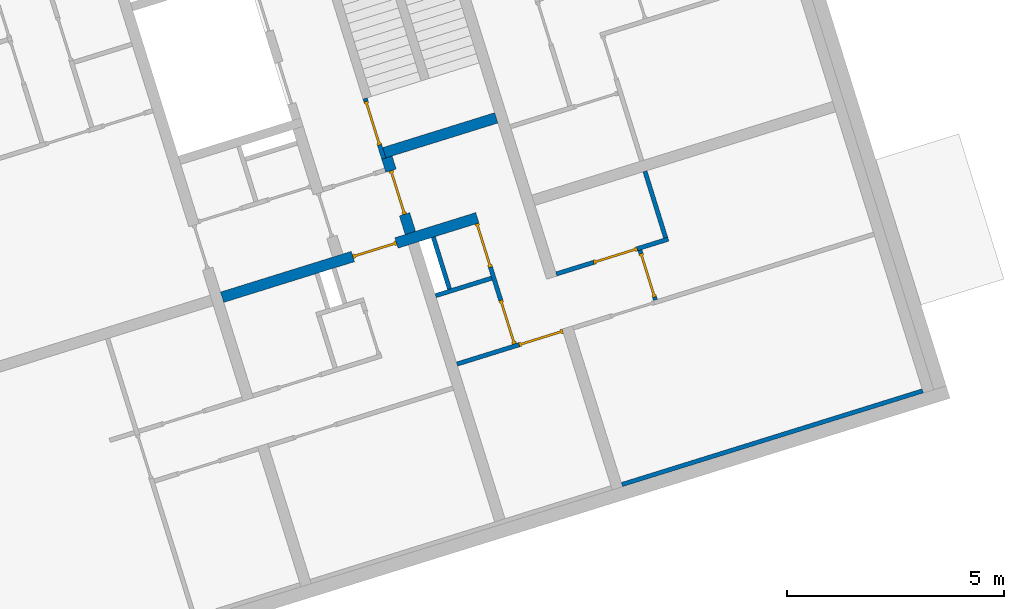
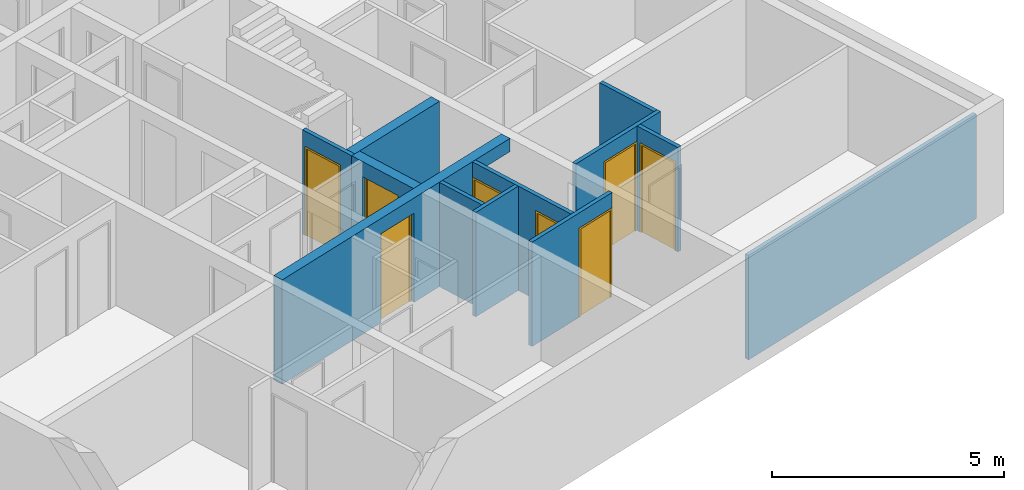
# One storey, part 3 of 9: 12 walls, 8 doors, 10 openings.
"""IFC4 building model written with IfcOpenShell, lengths in metres."""

import ifcopenshell
import ifcopenshell.guid

model = None  # the IFC model being written
_history = None  # IfcOwnerHistory: only IFC2X3 demands one
_inside = {}  # id of a spatial element -> (the spatial element, [elements in it])
_under = {}  # id of a project, library or spatial element -> (it, [spatial elements below it])
_declared = {}  # id of a project -> (the project, [libraries it declares])
_typed = {}  # id of a type object -> (the type object, [elements of that type])
_made_of = {}  # id of a material, layer set ... -> (it, [elements and type objects made of it])


def new_model(schema):
    """Start an empty IFC model of exactly this schema.

    Asked for "IFC4X3", IfcOpenShell would pick the latest addendum, in which some entities
    have other attributes; the version numbers below select the first issue.
    IFC2X3 requires an IfcOwnerHistory on every rooted entity: one is made here for all.
    """
    global model, _history
    if schema == "IFC4X3":
        model = ifcopenshell.file(schema_version=(4, 3, 0, 0))
    else:
        model = ifcopenshell.file(schema=schema)
    _inside.clear()
    _under.clear()
    _declared.clear()
    _typed.clear()
    _made_of.clear()
    _history = None
    if model.schema == "IFC2X3":
        org = make("IfcOrganization", Name="unknown")
        user = make(
            "IfcPersonAndOrganization",
            ThePerson=make("IfcPerson", FamilyName="unknown"),
            TheOrganization=org,
        )
        app = make(
            "IfcApplication",
            ApplicationDeveloper=org,
            Version="unknown",
            ApplicationFullName="unknown",
            ApplicationIdentifier="unknown",
        )
        _history = make(
            "IfcOwnerHistory",
            OwningUser=user,
            OwningApplication=app,
            ChangeAction="ADDED",
            CreationDate=0,
        )
    return model


def make(cls, **values):
    """One entity of the class cls with the attributes given. An attribute that is None is left unset."""
    return model.create_entity(
        cls, **{name: value for name, value in values.items() if value is not None}
    )


def entity(cls, *values):
    """Any entity or typed value of the class cls, its attributes in the order of the schema. None: left unset."""
    e = model.create_entity(cls)
    for i, value in enumerate(values):
        if value is not None:
            e[i] = value
    return e


def rooted(cls, **values):
    """An entity with a GlobalId (a new one), such as an element, a storey or a relation."""
    return make(cls, GlobalId=ifcopenshell.guid.new(), OwnerHistory=_history, **values)


def si_unit(unit_type, name, prefix=None):
    """IfcSIUnit, for example si_unit("LENGTHUNIT", "METRE", prefix="MILLI")."""
    return make("IfcSIUnit", UnitType=unit_type, Prefix=prefix, Name=name)


def converted_unit(unit_type, name, factor, base, dimensions=None, offset=None):
    """IfcConversionBasedUnit, such as the inch: factor (a typed value) times the base unit."""
    return make(
        "IfcConversionBasedUnit"
        if offset is None
        else "IfcConversionBasedUnitWithOffset",
        ConversionOffset=offset,
        Dimensions=None
        if dimensions is None
        else entity("IfcDimensionalExponents", *dimensions),
        UnitType=unit_type,
        Name=name,
        ConversionFactor=make(
            "IfcMeasureWithUnit", ValueComponent=factor, UnitComponent=base
        ),
    )


def assignment(units):
    """IfcUnitAssignment: the units of a project."""
    return None if units is None else make("IfcUnitAssignment", Units=units)


def point(xyz):
    """IfcCartesianPoint."""
    return None if xyz is None else make("IfcCartesianPoint", Coordinates=xyz)


def direction(xyz):
    """IfcDirection."""
    return None if xyz is None else make("IfcDirection", DirectionRatios=xyz)


def frame(location, z_axis=None, x_axis=None):
    """IfcAxis2Placement3D, a coordinate frame: its origin and axes. An axis left out is left unset."""
    return make(
        "IfcAxis2Placement3D",
        Location=point(location),
        Axis=direction(z_axis),
        RefDirection=direction(x_axis),
    )


def origin():
    """The frame at (0, 0, 0) with its axes left unset."""
    return frame((0.0, 0.0, 0.0))


def place(relative_to, where):
    """IfcLocalPlacement: puts the frame where relative to a parent placement (None: the world)."""
    return make(
        "IfcLocalPlacement", PlacementRelTo=relative_to, RelativePlacement=where
    )


def context(
    kind, dimensions, precision=None, world=None, true_north=None, identifier=None
):
    """IfcGeometricRepresentationContext, for example the 3D "Model" context."""
    return make(
        "IfcGeometricRepresentationContext",
        ContextIdentifier=identifier,
        ContextType=kind,
        CoordinateSpaceDimension=dimensions,
        Precision=precision,
        WorldCoordinateSystem=world,
        TrueNorth=true_north,
    )


def subcontext(parent, identifier, kind, view, scale=None):
    """IfcGeometricRepresentationSubContext, for example "Body" below "Model"."""
    return make(
        "IfcGeometricRepresentationSubContext",
        ContextIdentifier=identifier,
        ContextType=kind,
        ParentContext=parent,
        TargetScale=scale,
        TargetView=view,
    )


def project(units=None, contexts=None):
    """IfcProject with its units and contexts."""
    return rooted(
        "IfcProject",
        Name="project",
        RepresentationContexts=contexts,
        UnitsInContext=assignment(units),
    )


def spatial(cls, under=None, at=None, **own):
    """A site, building, storey or space (cls), placed at a placement, below another one or the project."""
    s = rooted(cls, ObjectPlacement=at, **own)
    if under is not None:
        _under.setdefault(under.id(), (under, []))[1].append(s)
    return s


def point_list(points):
    """IfcCartesianPointList2D or 3D."""
    cls = (
        "IfcCartesianPointList2D" if len(points[0]) == 2 else "IfcCartesianPointList3D"
    )
    return make(cls, CoordList=points)


def indexed_curve(points, segments=None, self_intersect=None):
    """IfcIndexedPolyCurve: lines and arcs through numbered points (the first is 1)."""
    return make(
        "IfcIndexedPolyCurve",
        Points=point_list(points),
        Segments=segments,
        SelfIntersect=self_intersect,
    )


def outline(outer, holes=None, kind="AREA"):
    """IfcArbitraryClosedProfileDef: a profile drawn as a closed curve; with holes, ...WithVoids."""
    if holes is None:
        return make("IfcArbitraryClosedProfileDef", ProfileType=kind, OuterCurve=outer)
    return make(
        "IfcArbitraryProfileDefWithVoids",
        ProfileType=kind,
        OuterCurve=outer,
        InnerCurves=holes,
    )


def extrude(swept, where, along, depth):
    """IfcExtrudedAreaSolid: the profile swept, set in the frame where, extruded along a direction by depth."""
    return make(
        "IfcExtrudedAreaSolid",
        SweptArea=swept,
        Position=where,
        ExtrudedDirection=direction(along),
        Depth=depth,
    )


def polygons(points, faces, closed=None, point_numbers=None):
    """IfcPolygonalFaceSet: a face is its outer loop, then its inner loops; points numbered from 1."""
    made = []
    for loops in faces:
        if len(loops) == 1:
            made.append(make("IfcIndexedPolygonalFace", CoordIndex=loops[0]))
        else:
            made.append(
                make(
                    "IfcIndexedPolygonalFaceWithVoids",
                    CoordIndex=loops[0],
                    InnerCoordIndices=loops[1:],
                )
            )
    return make(
        "IfcPolygonalFaceSet",
        Coordinates=point_list(points),
        Closed=closed,
        Faces=made,
        PnIndex=point_numbers,
    )


def shape(context_of_items, identifier, shape_type, items):
    """IfcShapeRepresentation: the items that make up one representation, for example the "Body"."""
    return make(
        "IfcShapeRepresentation",
        ContextOfItems=context_of_items,
        RepresentationIdentifier=identifier,
        RepresentationType=shape_type,
        Items=items,
    )


def source(mapping_origin, context_of_items, identifier, shape_type, items):
    """IfcRepresentationMap: a shape defined once, which mapped items show again and again."""
    return make(
        "IfcRepresentationMap",
        MappingOrigin=mapping_origin,
        MappedRepresentation=shape(context_of_items, identifier, shape_type, items),
    )


def transform(
    local_origin,
    x_axis=None,
    y_axis=None,
    z_axis=None,
    scale=None,
    scale2=None,
    scale3=None,
    uniform=True,
):
    """IfcCartesianTransformationOperator3D, or its non-uniform kind. x_axis, y_axis, z_axis: its Axis1, 2, 3."""
    if uniform:
        return make(
            "IfcCartesianTransformationOperator3D",
            Axis1=direction(x_axis),
            Axis2=direction(y_axis),
            LocalOrigin=point(local_origin),
            Scale=scale,
            Axis3=direction(z_axis),
        )
    return make(
        "IfcCartesianTransformationOperator3DnonUniform",
        Axis1=direction(x_axis),
        Axis2=direction(y_axis),
        LocalOrigin=point(local_origin),
        Scale=scale,
        Axis3=direction(z_axis),
        Scale2=scale2,
        Scale3=scale3,
    )


def mapped(mapping_source, mapping_target):
    """IfcMappedItem: shows the shape of a source again, moved by a transform."""
    return make(
        "IfcMappedItem", MappingSource=mapping_source, MappingTarget=mapping_target
    )


def material(Name=None, Category=None):
    """IfcMaterial."""
    return make("IfcMaterial", Name=Name, Category=Category)


def constituent(of_material, Name=None, Category=None, fraction=None):
    """IfcMaterialConstituent: one of the materials an element consists of."""
    return make(
        "IfcMaterialConstituent",
        Name=Name,
        Material=of_material,
        Fraction=fraction,
        Category=Category,
    )


def constituent_set(constituents=None, Name=None):
    """IfcMaterialConstituentSet."""
    return make(
        "IfcMaterialConstituentSet", Name=Name, MaterialConstituents=constituents
    )


def made_of(thing, what):
    """Note that an element or type object is made of a material, layer set ...; save() writes the relation."""
    if what is not None:
        _made_of.setdefault(what.id(), (what, []))[1].append(thing)
    return thing


def type_object(cls, material=None, **own):
    """A type object (cls), such as IfcWallType, which elements share."""
    return made_of(rooted(cls, **own), material)


def type_shapes(of_type, sources):
    """Give a type object the sources (RepresentationMaps) that its elements show as mapped items."""
    of_type.RepresentationMaps = sources


def element(
    cls,
    number,
    at=None,
    inside=None,
    cuts=None,
    type_object=None,
    material=None,
    context=None,
    identifier="Body",
    shape_type=None,
    held_by="IfcProductDefinitionShape",
    body=None,
    shapes=None,
    **own,
):
    """One element of the class cls, such as IfcWall. Its Tag is "e" and its number.

    at: its placement. inside: the storey or other place that contains it. cuts: it is an
    opening in that element (IfcRelVoidsElement). A single representation is given by context,
    identifier, shape_type and body (its items); several are given by shapes. held_by: the class
    of the entity that holds the representations. save() writes the other relations.
    """
    e = rooted(cls, Tag="e%d" % number, ObjectPlacement=at, **own)
    if body is not None:
        shapes = [shape(context, identifier, shape_type, body)]
    if shapes is not None:
        e.Representation = make(held_by, Representations=shapes)
    if inside is not None:
        _inside.setdefault(inside.id(), (inside, []))[1].append(e)
    if cuts is not None:
        rooted(
            "IfcRelVoidsElement", RelatingBuildingElement=cuts, RelatedOpeningElement=e
        )
    if type_object is not None:
        _typed.setdefault(type_object.id(), (type_object, []))[1].append(e)
    return made_of(e, material)


def fill(opening, filler):
    """IfcRelFillsElement: the door or window that sits in an opening."""
    return rooted(
        "IfcRelFillsElement",
        RelatingOpeningElement=opening,
        RelatedBuildingElement=filler,
    )


def aggregate(whole, parts):
    """IfcRelAggregates: a whole, such as a stair, and the parts it consists of."""
    return rooted("IfcRelAggregates", RelatingObject=whole, RelatedObjects=parts)


def save(model, path):
    """Write the relations noted so far, then the file.

    IfcRelAggregates (storeys below a building ...), IfcRelContainedInSpatialStructure (elements
    in a storey), IfcRelDefinesByType, IfcRelAssociatesMaterial and IfcRelDeclares: one each for
    every whole, place, type object, material and project.
    """
    for whole, parts in _under.values():
        aggregate(whole, parts)
    for where, things in _inside.values():
        rooted(
            "IfcRelContainedInSpatialStructure",
            RelatedElements=things,
            RelatingStructure=where,
        )
    for kind, things in _typed.values():
        rooted("IfcRelDefinesByType", RelatedObjects=things, RelatingType=kind)
    for what, things in _made_of.values():
        rooted("IfcRelAssociatesMaterial", RelatedObjects=things, RelatingMaterial=what)
    for by, libraries in _declared.values():
        rooted("IfcRelDeclares", RelatingContext=by, RelatedDefinitions=libraries)
    model.write(path)


model = new_model("IFC4")

# Units and contexts
model_context = context("Model", 3, precision=1e-05, world=origin(), true_north=direction((6.12323399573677e-17, 1.0)))
body_context = subcontext(model_context, "Body", "Model", "MODEL_VIEW")
ifc_project = project(units=[si_unit("LENGTHUNIT", "METRE"), si_unit("AREAUNIT", "SQUARE_METRE"), si_unit("VOLUMEUNIT", "CUBIC_METRE"), converted_unit("PLANEANGLEUNIT", "DEGREE", entity("IfcPlaneAngleMeasure", 0.0174532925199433), si_unit("PLANEANGLEUNIT", "RADIAN"), dimensions=[0, 0, 0, 0, 0, 0, 0])], contexts=[model_context])

# Site, building, storey
site_placement = place(None, frame((13.1347999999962, 11.9886000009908, 0.0), z_axis=(0.0, 0.0, 1.0), x_axis=(0.954770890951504, 0.297342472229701, 0.0)))
site = spatial("IfcSite", under=ifc_project, at=site_placement, Name="Schiehaven", CompositionType="ELEMENT")
building_placement = place(site_placement, origin())
building = spatial("IfcBuilding", under=site, at=building_placement, Name="VORM huis", CompositionType="ELEMENT")
storey_placement = place(building_placement, frame((0.0, 0.0, 18.9)))
storey = spatial("IfcBuildingStorey", under=building, at=storey_placement, Name="06 zesde verdieping", CompositionType="ELEMENT", Elevation=18.9)

# Wall, openings, door
ifc_material_1 = material(Name="beton_gewapend_ihw", Category="Miscellaneous")
wall_type_1 = type_object("IfcWallType", Name="Basic Wall:28_WA_skelet_wand 250mm_gen", PredefinedType="STANDARD")
wall_1_placement = place(storey_placement, frame((19.8750000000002, 11.8999999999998, 0.0), z_axis=(0.0, 0.0, 1.0), x_axis=(-1.0, 0.0, 0.0)))
wall_1 = element("IfcWall", 1, at=wall_1_placement, inside=storey, type_object=wall_type_1, material=ifc_material_1, Name="Constructieve wand", ObjectType="Wand", PredefinedType="NOTDEFINED", context=body_context, shape_type="Tessellation", body=[
    polygons([(4.09999999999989, -0.124999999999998, 2.34999999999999), (4.09999999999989, -0.124999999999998, 0.0), (7.24999999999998, -0.124999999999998, 0.0), (7.24999999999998, -0.124999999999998, 2.75), (3.21810276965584e-15, -0.125, 2.75), (3.21810276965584e-15, -0.125, 2.4), (1.10000000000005, -0.125, 2.4), (1.10000000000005, -0.125, 0.0), (3.0499999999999, -0.125, 0.0), (3.0499999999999, -0.125, 2.34999999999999), (7.24999999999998, 0.125000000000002, 0.0), (4.0999999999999, 0.125000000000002, 0.0), (4.0999999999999, 0.125000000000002, 2.34999999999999), (3.0499999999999, 0.125, 2.34999999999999), (3.0499999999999, 0.125, 0.0), (1.10000000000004, 0.125, 0.0), (1.10000000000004, 0.125, 2.4), (4.15076800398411e-15, 0.125, 2.4), (8.48223652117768e-15, 0.125, 2.75), (7.24999999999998, 0.125000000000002, 2.75)], [[[1, 2, 3, 4, 5, 6, 7, 8, 9, 10]], [[11, 12, 13, 14, 15, 16, 17, 18, 19, 20]], [[9, 8, 16, 15]], [[5, 4, 20, 19]], [[5, 19, 18, 6]], [[15, 14, 10, 9]], [[13, 12, 2, 1]], [[14, 13, 1, 10]], [[17, 7, 6, 18]], [[7, 17, 16, 8]], [[4, 3, 11, 20]], [[3, 2, 12, 11]]], closed=True),
])
opening_1_placement = place(wall_1_placement, origin())
element("IfcOpeningElement", 2, at=opening_1_placement, cuts=wall_1, Name="Constructieve wand", PredefinedType="OPENING", context=body_context, shape_type="SweptSolid", body=[
    extrude(outline(indexed_curve([(-1.2, -0.550000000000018), (1.2, -0.550000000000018), (1.2, 0.550000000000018), (-1.2, 0.550000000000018), (-1.2, -0.550000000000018)], self_intersect=False)), frame((0.55000000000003, -0.125, 1.2), z_axis=(0.0, 1.0, 0.0), x_axis=(0.0, 0.0, -1.0)), (0.0, 0.0, 1.0), 0.249999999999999),
])
opening_2_placement = place(wall_1_placement, frame((4.09999999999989, 0.124999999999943, 0.0)))
opening_2 = element("IfcOpeningElement", 3, at=opening_2_placement, cuts=wall_1, Name="Woningtoegangsdeur", PredefinedType="OPENING", context=body_context, shape_type="SweptSolid", body=[
    extrude(outline(indexed_curve([(2.34999999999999, 1.05), (0.0, 1.05), (0.0, 1.08286712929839e-15), (2.34999999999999, 1.08286712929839e-15), (2.34999999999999, 1.05)], self_intersect=False)), frame((0.0, 0.0, 0.0), z_axis=(0.0, -1.0, 0.0), x_axis=(0.0, 0.0, 1.0)), (0.0, 0.0, 1.0), 0.25),
])
ifc_material_2 = material(Name="PD_a_binnenwandopeningen", Category="Miscellaneous")
ifc_constituent_1 = constituent(ifc_material_2, Name="PD_a_binnenwandopeningen", Category="Miscellaneous")
ifc_material_3 = material(Name="metaal_aluminium_ntb", Category="Miscellaneous")
ifc_constituent_2 = constituent(ifc_material_3, Name="metaal_aluminium_ntb", Category="Miscellaneous")
ifc_constituent_set_1 = constituent_set(constituents=[ifc_constituent_1, ifc_constituent_2])
door_type_1 = type_object("IfcDoorType", Name="32_DO_binnendeur enkel:woningtoegangsdeur", OperationType="REVOLVING", PredefinedType="DOOR")
shared_shape_1 = source(origin(), body_context, "Body", "SweptSolid", [
    extrude(outline(indexed_curve([(-1.16249999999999, -0.525000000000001), (1.18749999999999, -0.525), (1.18749999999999, 0.525000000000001), (-1.16249999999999, 0.525000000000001), (-1.16249999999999, 0.475), (1.13749999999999, 0.475), (1.13749999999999, -0.475), (-1.16249999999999, -0.475), (-1.16249999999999, -0.525000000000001)], self_intersect=False)), frame((0.525000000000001, 0.0749999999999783, 1.16249999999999), z_axis=(0.0, 1.0, 0.0), x_axis=(0.0, 0.0, 1.0)), (0.0, 0.0, 1.0), 0.1),
    extrude(outline(indexed_curve([(-0.025, -0.475), (0.025, -0.475), (0.025, 0.475), (-0.025, 0.475), (-0.025, -0.475)], self_intersect=False)), frame((0.525000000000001, 0.12499999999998, 0.0), z_axis=(0.0, 0.0, 1.0), x_axis=(0.0, 1.0, 0.0)), (0.0, 0.0, 1.0), 2.29999999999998),
])
door_1_placement = place(opening_2_placement, frame((0.0, 0.0, 0.0), z_axis=(0.0, 0.0, 1.0), x_axis=(-1.0, 0.0, 0.0)))
door_1 = element("IfcDoor", 4, at=door_1_placement, inside=storey, type_object=door_type_1, material=ifc_constituent_set_1, Name="Woningtoegangsdeur", ObjectType="Deur", OperationType="REVOLVING", OverallHeight=2.34999999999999, OverallWidth=1.05, PredefinedType="DOOR", context=body_context, shape_type="MappedRepresentation", body=[
    mapped(shared_shape_1, transform((0.0, 0.0, 0.0), scale=1.0)),
])
fill(opening_2, door_1)

# Wall
ifc_material_4 = material(Name="ntb_ntb_ntb", Category="Miscellaneous")
wall_type_2 = type_object("IfcWallType", Name="Basic Wall:21_WA_gevel_binnenspouwwand 100mm_gen", PredefinedType="STANDARD")
wall_2_placement = place(storey_placement, frame((20.125, 5.04999999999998, 0.0)))
element("IfcWall", 5, at=wall_2_placement, inside=storey, type_object=wall_type_2, material=ifc_material_4, Name="Binnenspouwblad", ObjectType="Wand", PredefinedType="NOTDEFINED", context=body_context, shape_type="SweptSolid", body=[
    extrude(outline(indexed_curve([(7.24999999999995, 0.0500000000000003), (-1.84844170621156e-16, 0.0500000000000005), (1.84844170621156e-16, -0.0500000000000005), (7.24999999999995, -0.0500000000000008), (7.24999999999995, 0.0500000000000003)], self_intersect=False)), origin(), (0.0, 0.0, 1.0), 2.75),
])

# Wall, opening, door
wall_type_3 = type_object("IfcWallType", Name="Basic Wall:22_WA_afbouw_binnenwand 250mm_gen", PredefinedType="STANDARD")
wall_3_placement = place(storey_placement, frame((17.2000000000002, 13.8399999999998, 0.0), z_axis=(0.0, 0.0, 1.0), x_axis=(0.0, -1.0, 0.0)))
wall_3 = element("IfcWall", 6, at=wall_3_placement, inside=storey, type_object=wall_type_3, material=ifc_material_4, Name="Binnenwand", ObjectType="Wand", PredefinedType="NOTDEFINED", context=body_context, shape_type="Tessellation", body=[
    polygons([(-4.33146851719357e-15, -0.124999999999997, 0.0), (0.215000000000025, -0.125, 0.0), (0.315000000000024, -0.124999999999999, 0.0), (0.315000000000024, -0.124999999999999, 2.34999999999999), (1.36500000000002, -0.125, 2.34999999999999), (1.36500000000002, -0.125, 0.0), (1.81499999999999, -0.125, 0.0), (1.81499999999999, -0.125, 2.75), (0.315000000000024, -0.124999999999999, 2.75), (0.215000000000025, -0.125, 2.75), (-4.33146851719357e-15, -0.124999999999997, 2.75), (0.315000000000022, 0.125000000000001, 2.34999999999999), (0.315000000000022, 0.125000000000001, 0.0), (0.0, 0.125, 0.0), (0.0, 0.125, 2.75), (1.81499999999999, 0.124999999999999, 2.75), (1.81499999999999, 0.124999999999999, 0.0), (1.36500000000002, 0.124999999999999, 0.0), (1.36500000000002, 0.124999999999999, 2.34999999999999), (0.0, -0.0250000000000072, 0.0), (0.0, -0.0250000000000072, 2.75)], [[[1, 2, 3, 4, 5, 6, 7, 8, 9, 10, 11]], [[12, 13, 14, 15, 16, 17, 18, 19]], [[14, 13, 3, 2, 1, 20]], [[8, 7, 17, 16]], [[11, 10, 9, 8, 16, 15, 21]], [[6, 5, 19, 18]], [[4, 3, 13, 12]], [[5, 4, 12, 19]], [[1, 11, 21, 15, 14, 20]], [[18, 17, 7, 6]]], closed=True),
])
opening_3_placement = place(wall_3_placement, frame((1.36500000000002, 0.124999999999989, 0.0)))
opening_3 = element("IfcOpeningElement", 7, at=opening_3_placement, cuts=wall_3, Name="Woningtoegangsdeur", PredefinedType="OPENING", context=body_context, shape_type="SweptSolid", body=[
    extrude(outline(indexed_curve([(2.34999999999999, 1.35358391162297e-15), (2.34999999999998, 1.05), (0.0, 1.05), (2.16573425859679e-15, 1.35358391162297e-15), (2.34999999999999, 1.35358391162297e-15)], self_intersect=False)), frame((0.0, 0.0, 0.0), z_axis=(0.0, -1.0, 0.0), x_axis=(0.0, 0.0, 1.0)), (0.0, 0.0, 1.0), 0.25),
])
ifc_constituent_3 = constituent(ifc_material_2, Name="PD_a_binnenwandopeningen", Category="Miscellaneous")
ifc_constituent_4 = constituent(ifc_material_3, Name="metaal_aluminium_ntb", Category="Miscellaneous")
ifc_constituent_set_2 = constituent_set(constituents=[ifc_constituent_3, ifc_constituent_4])
shared_shape_2 = source(origin(), body_context, "Body", "SweptSolid", [
    extrude(outline(indexed_curve([(0.475, -1.16249999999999), (0.525000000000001, -1.16249999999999), (0.525000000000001, 1.18749999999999), (-0.525000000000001, 1.18749999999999), (-0.525000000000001, -1.16249999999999), (-0.475, -1.16249999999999), (-0.475, 1.13749999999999), (0.475, 1.13749999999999), (0.475, -1.16249999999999)], self_intersect=False)), frame((0.525000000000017, 0.174999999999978, 1.16249999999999), z_axis=(0.0, -1.0, 0.0), x_axis=(1.0, 0.0, 0.0)), (0.0, 0.0, 1.0), 0.1),
    extrude(outline(indexed_curve([(-0.475, -0.025), (0.475, -0.025), (0.475, 0.025), (-0.475, 0.025), (-0.475, -0.025)], self_intersect=False)), frame((0.525000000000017, 0.12499999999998, 0.0)), (0.0, 0.0, 1.0), 2.29999999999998),
])
door_2_placement = place(opening_3_placement, frame((0.0, 0.0, 0.0), z_axis=(0.0, 0.0, 1.0), x_axis=(-1.0, 0.0, 0.0)))
door_2 = element("IfcDoor", 8, at=door_2_placement, inside=storey, type_object=door_type_1, material=ifc_constituent_set_2, Name="Woningtoegangsdeur", ObjectType="Deur", OperationType="REVOLVING", OverallHeight=2.34999999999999, OverallWidth=1.05, PredefinedType="DOOR", context=body_context, shape_type="MappedRepresentation", body=[
    mapped(shared_shape_2, transform((0.0, 0.0, 0.0), scale=1.0)),
])
fill(opening_3, door_2)

# Wall
wall_4_placement = place(storey_placement, frame((19.8750000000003, 13.9649999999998, 0.0), z_axis=(0.0, 0.0, 1.0), x_axis=(-1.0, 0.0, 0.0)))
element("IfcWall", 9, at=wall_4_placement, inside=storey, type_object=wall_type_3, material=ifc_material_4, Name="Binnenwand", ObjectType="Wand", PredefinedType="NOTDEFINED", context=body_context, shape_type="SweptSolid", body=[
    extrude(outline(indexed_curve([(2.70000000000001, 0.124999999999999), (2.34490905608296e-15, 0.125), (1.98655946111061e-15, -0.125), (2.70000000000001, -0.125), (2.70000000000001, 0.124999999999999)], self_intersect=False)), origin(), (0.0, 0.0, 1.0), 2.75),
])

# Wall, opening, door
wall_type_4 = type_object("IfcWallType", Name="Basic Wall:22_WA_afbouw_binnenwand 100mm_gen", PredefinedType="STANDARD")
wall_5_placement = place(storey_placement, frame((17.1250000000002, 13.8399999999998, 0.0), z_axis=(0.0, 0.0, 1.0), x_axis=(0.0, 1.0, 0.0)))
wall_5 = element("IfcWall", 10, at=wall_5_placement, inside=storey, type_object=wall_type_4, material=ifc_material_4, Name="Binnenwand", ObjectType="Wand", PredefinedType="NOTDEFINED", context=body_context, shape_type="Tessellation", body=[
    polygons([(1.44999999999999, -0.0499999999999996, 0.0), (1.44999999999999, -0.0499999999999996, 2.75), (0.249999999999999, -0.0500000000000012, 2.75), (2.16573425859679e-15, -0.0500000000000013, 2.75), (2.16573425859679e-15, -0.0500000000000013, 0.0), (0.249999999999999, -0.0500000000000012, 0.0), (0.324999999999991, -0.0499999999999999, 0.0), (0.324999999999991, -0.0499999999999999, 2.34999999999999), (1.37499999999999, -0.050000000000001, 2.34999999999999), (1.37499999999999, -0.050000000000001, 0.0), (1.44999999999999, 0.0500000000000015, 2.75), (1.44999999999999, 0.0500000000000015, 0.0), (1.37499999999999, 0.0500000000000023, 0.0), (1.37499999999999, 0.0500000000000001, 2.34999999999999), (0.324999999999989, 0.0500000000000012, 2.34999999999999), (0.324999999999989, 0.0500000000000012, 0.0), (0.0, 0.050000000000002, 0.0), (0.0, 0.050000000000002, 2.75)], [[[1, 2, 3, 4, 5, 6, 7, 8, 9, 10]], [[11, 12, 13, 14, 15, 16, 17, 18]], [[5, 17, 16, 7, 6]], [[2, 1, 12, 11]], [[4, 3, 2, 11, 18]], [[15, 8, 7, 16]], [[9, 14, 13, 10]], [[8, 15, 14, 9]], [[5, 4, 18, 17]], [[12, 1, 10, 13]]], closed=True),
])
opening_4_placement = place(wall_5_placement, frame((1.37499999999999, 0.0499999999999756, 0.0)))
opening_4 = element("IfcOpeningElement", 11, at=opening_4_placement, cuts=wall_5, Name="Vluchtdeur", PredefinedType="OPENING", context=body_context, shape_type="SweptSolid", body=[
    extrude(outline(indexed_curve([(2.34999999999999, 1.05), (0.0, 1.05), (0.0, 1.35358391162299e-15), (2.34999999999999, 1.35358391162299e-15), (2.34999999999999, 1.05)], self_intersect=False)), frame((0.0, 0.0, 0.0), z_axis=(0.0, -1.0, 0.0), x_axis=(0.0, 0.0, 1.0)), (0.0, 0.0, 1.0), 0.1),
])
ifc_constituent_5 = constituent(ifc_material_2, Name="PD_a_binnenwandopeningen", Category="Miscellaneous")
ifc_constituent_6 = constituent(ifc_material_3, Name="metaal_aluminium_ntb", Category="Miscellaneous")
ifc_constituent_set_3 = constituent_set(constituents=[ifc_constituent_5, ifc_constituent_6])
door_type_2 = type_object("IfcDoorType", Name="32_DO_binnendeur enkel:binnendeur zelfsluitend 30min", OperationType="NOTDEFINED", PredefinedType="DOOR")
shared_shape_3 = source(origin(), body_context, "Body", "SweptSolid", [
    extrude(outline(indexed_curve([(-1.16249999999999, -0.525000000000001), (1.18749999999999, -0.525), (1.18749999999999, 0.525), (-1.16249999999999, 0.525), (-1.16249999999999, 0.475), (1.13749999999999, 0.475), (1.13749999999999, -0.475), (-1.16249999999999, -0.475), (-1.16249999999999, -0.525000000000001)], self_intersect=False)), frame((0.525000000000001, 0.0, 1.16249999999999), z_axis=(0.0, 1.0, 0.0), x_axis=(0.0, 0.0, 1.0)), (0.0, 0.0, 1.0), 0.1),
    extrude(outline(indexed_curve([(-0.025, -0.475), (0.025, -0.475), (0.025, 0.475), (-0.025, 0.475), (-0.025, -0.475)], self_intersect=False)), frame((0.525000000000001, 0.0499999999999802, 0.0), z_axis=(0.0, 0.0, 1.0), x_axis=(0.0, 1.0, 0.0)), (0.0, 0.0, 1.0), 2.29999999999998),
])
type_shapes(door_type_2, [shared_shape_3])
door_3_placement = place(opening_4_placement, frame((0.0, 0.0, 0.0), z_axis=(0.0, 0.0, 1.0), x_axis=(-1.0, 0.0, 0.0)))
door_3 = element("IfcDoor", 12, at=door_3_placement, inside=storey, type_object=door_type_2, material=ifc_constituent_set_3, Name="Vluchtdeur", ObjectType="Deur", OperationType="NOTDEFINED", OverallHeight=2.34999999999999, OverallWidth=1.05, PredefinedType="DOOR", context=body_context, shape_type="MappedRepresentation", body=[
    mapped(shared_shape_3, transform((0.0, 0.0, 0.0), scale=1.0)),
])
fill(opening_4, door_3)

# Wall
wall_6_placement = place(storey_placement, frame((17.3250000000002, 10.4749999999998, 0.0)))
element("IfcWall", 13, at=wall_6_placement, inside=storey, type_object=wall_type_4, material=ifc_material_4, Name="Binnenwand", ObjectType="Wand", PredefinedType="NOTDEFINED", context=body_context, shape_type="SweptSolid", body=[
    extrude(outline(indexed_curve([(1.34999999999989, 0.0500000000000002), (-1.88291440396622e-16, 0.0499999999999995), (1.88291440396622e-16, -0.0499999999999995), (1.34999999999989, -0.0499999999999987), (1.34999999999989, 0.0500000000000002)], self_intersect=False)), origin(), (0.0, 0.0, 1.0), 2.75),
])

# Wall, opening, door
wall_7_placement = place(storey_placement, frame((22.8250000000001, 10.1249999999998, 0.0), z_axis=(0.0, 0.0, 1.0), x_axis=(-1.0, 0.0, 0.0)))
wall_7 = element("IfcWall", 14, at=wall_7_placement, inside=storey, type_object=wall_type_4, material=ifc_material_4, Name="Binnenwand", ObjectType="Wand", PredefinedType="NOTDEFINED", context=body_context, shape_type="Tessellation", body=[
    polygons([(4.28724628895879e-16, -0.0500000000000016, 2.16573425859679e-15), (0.0999999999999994, -0.0500000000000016, 2.16573425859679e-15), (0.750000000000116, -0.0500000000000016, 2.16573425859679e-15), (0.750000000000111, -0.0500000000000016, 2.34999999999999), (1.80000000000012, -0.0500000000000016, 2.34999999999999), (1.80000000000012, -0.0500000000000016, 2.16573425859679e-15), (2.69999999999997, -0.0500000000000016, 2.16573425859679e-15), (2.69999999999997, -0.0500000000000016, 2.75), (0.0999999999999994, -0.0500000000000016, 2.75), (4.28724628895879e-16, -0.0500000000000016, 2.75), (0.750000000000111, 0.0499999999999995, 2.34999999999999), (0.750000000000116, 0.0499999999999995, 2.16573425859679e-15), (0.650000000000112, 0.0499999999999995, 2.16573425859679e-15), (1.26523112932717e-16, 0.0499999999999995, 2.16573425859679e-15), (1.26523112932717e-16, 0.0499999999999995, 2.75), (0.650000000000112, 0.0499999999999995, 2.75), (0.750000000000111, 0.0499999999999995, 2.75), (2.69999999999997, 0.0499999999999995, 2.75), (2.69999999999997, 0.0499999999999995, 2.16573425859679e-15), (1.80000000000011, 0.0499999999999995, 2.16573425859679e-15), (1.80000000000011, 0.0499999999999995, 2.34999999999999)], [[[1, 2, 3, 4, 5, 6, 7, 8, 9, 10]], [[11, 12, 13, 14, 15, 16, 17, 18, 19, 20, 21]], [[14, 13, 12, 3, 2, 1]], [[8, 7, 19, 18]], [[10, 9, 8, 18, 17, 16, 15]], [[6, 5, 21, 20]], [[4, 3, 12, 11]], [[5, 4, 11, 21]], [[1, 10, 15, 14]], [[20, 19, 7, 6]]], closed=True),
])
opening_5_placement = place(wall_7_placement, frame((0.750000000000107, -0.0500000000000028, 0.0)))
opening_5 = element("IfcOpeningElement", 15, at=opening_5_placement, cuts=wall_7, Name="Binnendeur", PredefinedType="OPENING", context=body_context, shape_type="SweptSolid", body=[
    extrude(outline(indexed_curve([(2.34999999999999, 1.05), (0.0, 1.05), (0.0, -3.50253438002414e-30), (2.34999999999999, -3.50253438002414e-30), (2.34999999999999, 1.05)], self_intersect=False)), frame((0.0, 0.0, 0.0), z_axis=(0.0, 1.0, 0.0), x_axis=(0.0, 0.0, 1.0)), (0.0, 0.0, 1.0), 0.1),
])
ifc_constituent_7 = constituent(ifc_material_2, Name="PD_a_binnenwandopeningen", Category="Miscellaneous")
ifc_constituent_8 = constituent(ifc_material_3, Name="metaal_aluminium_ntb", Category="Miscellaneous")
ifc_constituent_set_4 = constituent_set(constituents=[ifc_constituent_7, ifc_constituent_8])
door_type_3 = type_object("IfcDoorType", Name="32_DO_binnendeur enkel:binnendeur", OperationType="REVOLVING", PredefinedType="DOOR")
shared_shape_4 = source(origin(), body_context, "Body", "SweptSolid", [
    extrude(outline(indexed_curve([(-1.16249999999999, -0.525000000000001), (1.18749999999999, -0.525), (1.18749999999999, 0.525), (-1.16249999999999, 0.525), (-1.16249999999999, 0.475), (1.13749999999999, 0.475), (1.13749999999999, -0.475), (-1.16249999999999, -0.475), (-1.16249999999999, -0.525000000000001)], self_intersect=False)), frame((0.525000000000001, 0.0, 1.16249999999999), z_axis=(0.0, 1.0, 0.0), x_axis=(0.0, 0.0, 1.0)), (0.0, 0.0, 1.0), 0.1),
    extrude(outline(indexed_curve([(-0.025, -0.475), (0.025, -0.475), (0.025, 0.475), (-0.025, 0.475), (-0.025, -0.475)], self_intersect=False)), frame((0.525000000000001, 0.0499999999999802, 0.0), z_axis=(0.0, 0.0, 1.0), x_axis=(0.0, 1.0, 0.0)), (0.0, 0.0, 1.0), 2.29999999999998),
])
type_shapes(door_type_3, [shared_shape_4])
door_4_placement = place(opening_5_placement, origin())
door_4 = element("IfcDoor", 16, at=door_4_placement, inside=storey, type_object=door_type_3, material=ifc_constituent_set_4, Name="Binnendeur", ObjectType="Deur", OperationType="REVOLVING", OverallHeight=2.34999999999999, OverallWidth=1.05, PredefinedType="DOOR", context=body_context, shape_type="MappedRepresentation", body=[
    mapped(shared_shape_4, transform((0.0, 0.0, 0.0), scale=1.0)),
])
fill(opening_5, door_4)

# Wall
wall_8_placement = place(storey_placement, frame((22.7750000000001, 10.1749999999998, 0.0), z_axis=(0.0, 0.0, 1.0), x_axis=(0.0, 1.0, 0.0)))
element("IfcWall", 17, at=wall_8_placement, inside=storey, type_object=wall_type_4, material=ifc_material_4, Name="Binnenwand", ObjectType="Wand", PredefinedType="NOTDEFINED", context=body_context, shape_type="SweptSolid", body=[
    extrude(outline(indexed_curve([(1.6000000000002, 0.0500000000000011), (-1.18119716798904e-16, 0.0500000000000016), (1.18119716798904e-16, -0.0500000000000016), (1.6000000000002, -0.0500000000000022), (1.6000000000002, 0.0500000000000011)], self_intersect=False)), origin(), (0.0, 0.0, 1.0), 2.75),
])

# Wall, opening, door
wall_9_placement = place(storey_placement, frame((22.125, 10.0749999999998, 0.0), z_axis=(0.0, 0.0, 1.0), x_axis=(0.0, -1.0, 0.0)))
wall_9 = element("IfcWall", 18, at=wall_9_placement, inside=storey, type_object=wall_type_4, material=ifc_material_4, Name="Binnenwand", ObjectType="Wand", PredefinedType="NOTDEFINED", context=body_context, shape_type="Tessellation", body=[
    polygons([(1.19999999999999, -0.0499999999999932, 2.75), (0.0, -0.0499999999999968, 2.75), (0.0, -0.0499999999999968, 2.34999999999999), (0.0, -0.0499999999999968, 2.16573425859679e-15), (0.0799999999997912, -0.049999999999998, 2.16573425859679e-15), (0.0799999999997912, -0.0499999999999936, 2.34999999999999), (1.12999999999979, -0.0499999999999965, 2.34999999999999), (1.12999999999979, -0.0499999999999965, 2.16573425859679e-15), (1.19999999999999, -0.0499999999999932, 2.16573425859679e-15), (1.19999999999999, -0.0499999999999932, 2.34999999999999), (2.16573425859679e-15, 0.0500000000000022, 2.75), (1.19999999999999, 0.0500000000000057, 2.75), (1.19999999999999, 0.0500000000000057, 2.16573425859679e-15), (1.12999999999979, 0.0500000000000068, 2.16573425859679e-15), (1.12999999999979, 0.0500000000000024, 2.34999999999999), (0.0799999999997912, 0.0500000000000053, 2.34999999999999), (0.0799999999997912, 0.0500000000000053, 2.16573425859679e-15), (2.16573425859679e-15, 0.0500000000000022, 2.16573425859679e-15)], [[[1, 2, 3, 4, 5, 6, 7, 8, 9, 10]], [[11, 12, 13, 14, 15, 16, 17, 18]], [[4, 18, 17, 5]], [[2, 1, 12, 11]], [[7, 15, 14, 8]], [[15, 7, 6, 16]], [[16, 6, 5, 17]], [[1, 10, 9, 13, 12]], [[4, 3, 2, 11, 18]], [[13, 9, 8, 14]]], closed=True),
])
opening_6_placement = place(wall_9_placement, frame((1.12999999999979, 0.0500000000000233, 0.0)))
opening_6 = element("IfcOpeningElement", 19, at=opening_6_placement, cuts=wall_9, Name="Binnendeur", PredefinedType="OPENING", context=body_context, shape_type="SweptSolid", body=[
    extrude(outline(indexed_curve([(2.34999999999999, 1.35358391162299e-15), (2.34999999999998, 1.05), (0.0, 1.05), (2.16573425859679e-15, 1.35358391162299e-15), (2.34999999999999, 1.35358391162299e-15)], self_intersect=False)), frame((0.0, 0.0, 0.0), z_axis=(0.0, -1.0, 0.0), x_axis=(0.0, 0.0, 1.0)), (0.0, 0.0, 1.0), 0.1),
])
ifc_constituent_9 = constituent(ifc_material_2, Name="PD_a_binnenwandopeningen", Category="Miscellaneous")
ifc_constituent_10 = constituent(ifc_material_3, Name="metaal_aluminium_ntb", Category="Miscellaneous")
ifc_constituent_set_5 = constituent_set(constituents=[ifc_constituent_9, ifc_constituent_10])
shared_shape_5 = source(origin(), body_context, "Body", "SweptSolid", [
    extrude(outline(indexed_curve([(0.475, -1.16249999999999), (0.525, -1.16249999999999), (0.525, 1.18749999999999), (-0.525, 1.18749999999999), (-0.525, -1.16249999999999), (-0.475, -1.16249999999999), (-0.475, 1.13749999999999), (0.475, 1.13749999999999), (0.475, -1.16249999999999)], self_intersect=False)), frame((0.525000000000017, 0.100000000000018, 1.16249999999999), z_axis=(0.0, -1.0, 0.0), x_axis=(1.0, 0.0, 0.0)), (0.0, 0.0, 1.0), 0.1),
    extrude(outline(indexed_curve([(-0.475, -0.025), (0.475, -0.025), (0.475, 0.025), (-0.475, 0.025), (-0.475, -0.025)], self_intersect=False)), frame((0.525000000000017, 0.0499999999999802, 0.0)), (0.0, 0.0, 1.0), 2.29999999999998),
])
door_5_placement = place(opening_6_placement, frame((0.0, 0.0, 0.0), z_axis=(0.0, 0.0, 1.0), x_axis=(-1.0, 0.0, 0.0)))
door_5 = element("IfcDoor", 20, at=door_5_placement, inside=storey, type_object=door_type_3, material=ifc_constituent_set_5, Name="Binnendeur", ObjectType="Deur", OperationType="REVOLVING", OverallHeight=2.34999999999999, OverallWidth=1.05, PredefinedType="DOOR", context=body_context, shape_type="MappedRepresentation", body=[
    mapped(shared_shape_5, transform((0.0, 0.0, 0.0), scale=1.0)),
])
fill(opening_6, door_5)

# Wall, openings, door
wall_10_placement = place(storey_placement, frame((17.3250000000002, 8.82499999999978, 0.0)))
wall_10 = element("IfcWall", 21, at=wall_10_placement, inside=storey, type_object=wall_type_4, material=ifc_material_4, Name="Binnenwand", ObjectType="Wand", PredefinedType="NOTDEFINED", context=body_context, shape_type="Tessellation", body=[
    polygons([(2.5499999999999, -0.0499999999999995, 2.75), (1.60660034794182e-15, -0.0500000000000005, 2.75), (1.60660034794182e-15, -0.0500000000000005, 2.16573425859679e-15), (1.49999999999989, -0.0500000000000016, 2.16573425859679e-15), (1.49999999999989, -0.0500000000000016, 2.34999999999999), (2.5499999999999, -0.0499999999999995, 2.34999999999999), (1.23001746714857e-15, 0.0499999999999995, 2.75), (1.34999999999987, 0.0499999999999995, 2.75), (1.44999999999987, 0.0499999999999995, 2.75), (2.5499999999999, 0.0499999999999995, 2.75), (2.5499999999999, 0.0499999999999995, 2.34999999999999), (1.49999999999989, 0.0499999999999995, 2.34999999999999), (1.49999999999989, 0.0499999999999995, 2.16573425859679e-15), (1.23001746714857e-15, 0.0499999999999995, 2.16573425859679e-15)], [[[1, 2, 3, 4, 5, 6]], [[7, 8, 9, 10, 11, 12, 13, 14]], [[3, 14, 13, 4]], [[10, 1, 6, 11]], [[2, 1, 10, 9, 8, 7]], [[3, 2, 7, 14]], [[12, 5, 4, 13]], [[5, 12, 11, 6]]], closed=True),
])
opening_7_placement = place(wall_10_placement, origin())
element("IfcOpeningElement", 22, at=opening_7_placement, cuts=wall_10, Name="Binnendeur", PredefinedType="OPENING", context=body_context, shape_type="SweptSolid", body=[
    extrude(outline(indexed_curve([(-0.0499999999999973, -1.17499999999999), (0.0500000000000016, -1.17499999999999), (0.0500000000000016, 1.17499999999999), (-0.0499999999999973, 1.17499999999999), (-0.0499999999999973, -1.17499999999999)], self_intersect=False)), frame((1.39999999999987, 0.0500000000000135, 1.17499999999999), z_axis=(0.0, 1.0, 0.0), x_axis=(-1.0, 0.0, 0.0)), (0.0, 0.0, 1.0), 1.05),
])
opening_8_placement = place(wall_10_placement, frame((1.49999999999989, -0.0500000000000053, 0.0)))
opening_8 = element("IfcOpeningElement", 23, at=opening_8_placement, cuts=wall_10, Name="Binnendeur", PredefinedType="OPENING", context=body_context, shape_type="SweptSolid", body=[
    extrude(outline(indexed_curve([(2.34999999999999, 1.05), (0.0, 1.05), (0.0, 1.35358391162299e-15), (2.34999999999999, 1.35358391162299e-15), (2.34999999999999, 1.05)], self_intersect=False)), frame((0.0, 0.0, 0.0), z_axis=(0.0, 1.0, 0.0), x_axis=(0.0, 0.0, 1.0)), (0.0, 0.0, 1.0), 0.1),
])
ifc_constituent_11 = constituent(ifc_material_2, Name="PD_a_binnenwandopeningen", Category="Miscellaneous")
ifc_constituent_12 = constituent(ifc_material_3, Name="metaal_aluminium_ntb", Category="Miscellaneous")
ifc_constituent_set_6 = constituent_set(constituents=[ifc_constituent_11, ifc_constituent_12])
door_6_placement = place(opening_8_placement, origin())
door_6 = element("IfcDoor", 24, at=door_6_placement, inside=storey, type_object=door_type_3, material=ifc_constituent_set_6, Name="Binnendeur", ObjectType="Deur", OperationType="REVOLVING", OverallHeight=2.34999999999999, OverallWidth=1.05, PredefinedType="DOOR", context=body_context, shape_type="MappedRepresentation", body=[
    mapped(shared_shape_4, transform((0.0, 0.0, 0.0), scale=1.0)),
])
fill(opening_8, door_6)

# Wall, openings, doors
wall_11_placement = place(storey_placement, frame((18.7250000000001, 11.7749999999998, 0.0), z_axis=(0.0, 0.0, 1.0), x_axis=(0.0, -1.0, 0.0)))
wall_11 = element("IfcWall", 25, at=wall_11_placement, inside=storey, type_object=wall_type_4, material=ifc_material_4, Name="Binnenwand", ObjectType="Wand", PredefinedType="NOTDEFINED", context=body_context, shape_type="Tessellation", body=[
    polygons([(2.90000000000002, -0.0499999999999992, 2.75), (1.35000000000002, -0.0499999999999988, 2.75), (1.25000000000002, -0.0500000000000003, 2.75), (2.16573425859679e-15, -0.0499999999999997, 2.75), (2.16573425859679e-15, -0.0499999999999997, 2.34999999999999), (1.05, -0.049999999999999, 2.34999999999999), (1.05, -0.0500000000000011, 2.16573425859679e-15), (1.25000000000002, -0.0500000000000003, 2.16573425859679e-15), (1.35000000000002, -0.0499999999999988, 2.16573425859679e-15), (1.85, -0.0499999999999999, 2.16573425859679e-15), (1.85, -0.0499999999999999, 2.34999999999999), (2.90000000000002, -0.0499999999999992, 2.34999999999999), (2.16573425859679e-15, 0.0500000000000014, 2.75), (2.90000000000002, 0.0499999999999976, 2.75), (2.90000000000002, 0.0499999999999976, 2.34999999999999), (1.85, 0.049999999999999, 2.34999999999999), (1.85, 0.049999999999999, 2.16573425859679e-15), (1.05, 0.0499999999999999, 2.16573425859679e-15), (1.05, 0.0499999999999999, 2.34999999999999), (2.16573425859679e-15, 0.0500000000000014, 2.34999999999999)], [[[1, 2, 3, 4, 5, 6, 7, 8, 9, 10, 11, 12]], [[13, 14, 15, 16, 17, 18, 19, 20]], [[17, 10, 9, 8, 7, 18]], [[4, 3, 2, 1, 14, 13]], [[4, 13, 20, 5]], [[6, 19, 18, 7]], [[19, 6, 5, 20]], [[16, 11, 10, 17]], [[11, 16, 15, 12]], [[14, 1, 12, 15]]], closed=True),
])
opening_9_placement = place(wall_11_placement, frame((1.85, -0.0500000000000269, 0.0)))
opening_9 = element("IfcOpeningElement", 26, at=opening_9_placement, cuts=wall_11, Name="Binnendeur", PredefinedType="OPENING", context=body_context, shape_type="SweptSolid", body=[
    extrude(outline(indexed_curve([(2.34999999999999, 1.05), (0.0, 1.05), (0.0, 2.70716782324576e-16), (2.34999999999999, 2.70716782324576e-16), (2.34999999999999, 1.05)], self_intersect=False)), frame((0.0, 0.0, 0.0), z_axis=(0.0, 1.0, 0.0), x_axis=(0.0, 0.0, 1.0)), (0.0, 0.0, 1.0), 0.1),
])
opening_10_placement = place(wall_11_placement, frame((0.0, -0.0499999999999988, 0.0)))
opening_10 = element("IfcOpeningElement", 27, at=opening_10_placement, cuts=wall_11, Name="Binnendeur", PredefinedType="OPENING", context=body_context, shape_type="SweptSolid", body=[
    extrude(outline(indexed_curve([(2.34999999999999, 1.05), (0.0, 1.05), (0.0, 1.35358391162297e-15), (2.34999999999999, 1.35358391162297e-15), (2.34999999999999, 1.05)], self_intersect=False)), frame((0.0, 0.0, 0.0), z_axis=(0.0, 1.0, 0.0), x_axis=(0.0, 0.0, 1.0)), (0.0, 0.0, 1.0), 0.1),
])
ifc_constituent_13 = constituent(ifc_material_2, Name="PD_a_binnenwandopeningen", Category="Miscellaneous")
ifc_constituent_14 = constituent(ifc_material_3, Name="metaal_aluminium_ntb", Category="Miscellaneous")
ifc_constituent_set_7 = constituent_set(constituents=[ifc_constituent_13, ifc_constituent_14])
door_7_placement = place(opening_9_placement, origin())
door_7 = element("IfcDoor", 28, at=door_7_placement, inside=storey, type_object=door_type_3, material=ifc_constituent_set_7, Name="Binnendeur", ObjectType="Deur", OperationType="REVOLVING", OverallHeight=2.34999999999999, OverallWidth=1.05, PredefinedType="DOOR", context=body_context, shape_type="MappedRepresentation", body=[
    mapped(shared_shape_4, transform((0.0, 0.0, 0.0), scale=1.0)),
])
fill(opening_9, door_7)
ifc_constituent_15 = constituent(ifc_material_2, Name="PD_a_binnenwandopeningen", Category="Miscellaneous")
ifc_constituent_16 = constituent(ifc_material_3, Name="metaal_aluminium_ntb", Category="Miscellaneous")
ifc_constituent_set_8 = constituent_set(constituents=[ifc_constituent_15, ifc_constituent_16])
door_8_placement = place(opening_10_placement, origin())
door_8 = element("IfcDoor", 29, at=door_8_placement, inside=storey, type_object=door_type_3, material=ifc_constituent_set_8, Name="Binnendeur", ObjectType="Deur", OperationType="REVOLVING", OverallHeight=2.34999999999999, OverallWidth=1.05, PredefinedType="DOOR", context=body_context, shape_type="MappedRepresentation", body=[
    mapped(shared_shape_4, transform((0.0, 0.0, 0.0), scale=1.0)),
])
fill(opening_10, door_8)

# Wall
wall_12_placement = place(storey_placement, frame((17.6750000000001, 11.7749999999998, 0.0), z_axis=(0.0, 0.0, 1.0), x_axis=(0.0, -1.0, 0.0)))
element("IfcWall", 30, at=wall_12_placement, inside=storey, type_object=wall_type_4, material=ifc_material_4, Name="Binnenwand", ObjectType="Wand", PredefinedType="NOTDEFINED", context=body_context, shape_type="SweptSolid", body=[
    extrude(outline(indexed_curve([(1.25000000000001, 0.0500000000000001), (7.54991624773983e-16, 0.0499999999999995), (-7.54991624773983e-16, -0.0499999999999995), (1.25000000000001, -0.0499999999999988), (1.25000000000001, 0.0500000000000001)], self_intersect=False)), origin(), (0.0, 0.0, 1.0), 2.75),
])

save(model, "model.ifc")
